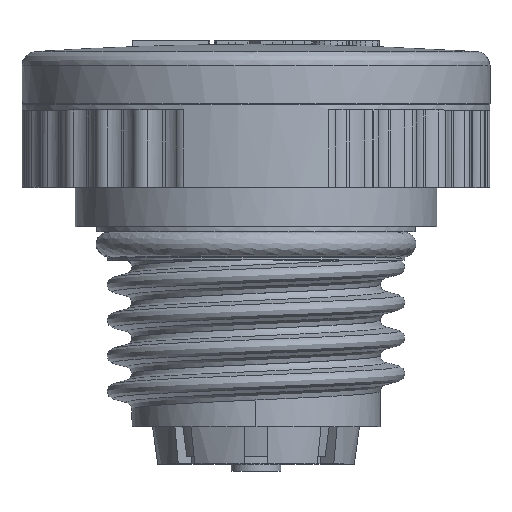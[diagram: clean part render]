
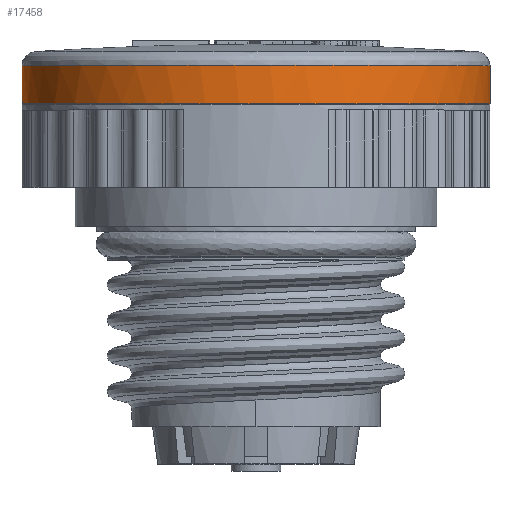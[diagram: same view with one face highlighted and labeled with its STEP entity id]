
A CAD part, top view. The second image highlights one B-rep face of the part: STEP entity #17458.
In plain terms, the highlighted free-form (B-spline) face has degree [2, 1] with [7, 2] control points.
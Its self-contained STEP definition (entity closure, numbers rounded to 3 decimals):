
#17323=CARTESIAN_POINT('V901',(147.144,
   75.13,-5.93));
#17324=VERTEX_POINT('V901',#17323);
#17340=CARTESIAN_POINT('E1335',(147.144,
   75.13,-5.93));
#17341=CARTESIAN_POINT('E1335',(147.144,
   75.13,-3.84));
#17342=CARTESIAN_POINT('E1335',(146.944,
   75.13,-1.747));
#17343=CARTESIAN_POINT('E1335',(146.154,
   75.13,2.359));
#17344=CARTESIAN_POINT('E1335',(145.563,
   75.13,4.376));
#17345=CARTESIAN_POINT('E1335',(144.011,
   75.13,8.259));
#17346=CARTESIAN_POINT('E1335',(143.049,
   75.13,10.128));
#17347=CARTESIAN_POINT('E1335',(140.791,
   75.13,13.648));
#17348=CARTESIAN_POINT('E1335',(139.493,
   75.13,15.301));
#17349=CARTESIAN_POINT('E1335',(136.662,
   75.13,18.277));
#17350=CARTESIAN_POINT('E1335',(135.137,
   75.13,19.611));
#17351=CARTESIAN_POINT('E1335',(131.871,
   75.13,21.977));
#17352=CARTESIAN_POINT('E1335',(130.128,
   75.13,23.011));
#17353=CARTESIAN_POINT('E1335',(125.715,
   75.13,25.107));
#17354=CARTESIAN_POINT('E1335',(122.957,
   75.13,26.));
#17355=CARTESIAN_POINT('E1335',(117.314,
   75.13,27.042));
#17356=CARTESIAN_POINT('E1335',(114.419,
   75.13,27.193));
#17357=CARTESIAN_POINT('E1335',(109.535,
   75.13,26.809));
#17358=CARTESIAN_POINT('E1335',(107.523,
   75.13,26.462));
#17359=CARTESIAN_POINT('E1335',(103.603,
   75.13,25.407));
#17360=CARTESIAN_POINT('E1335',(101.689,
   75.13,24.696));
#17361=CARTESIAN_POINT('E1335',(98.029,
   75.13,22.939));
#17362=CARTESIAN_POINT('E1335',(96.278,
   75.13,21.89));
#17363=CARTESIAN_POINT('E1335',(93.003,
   75.13,19.49));
#17364=CARTESIAN_POINT('E1335',(91.475,
   75.13,18.137));
#17365=CARTESIAN_POINT('E1335',(88.649,
   75.13,15.127));
#17366=CARTESIAN_POINT('E1335',(87.358,
   75.13,13.458));
#17367=CARTESIAN_POINT('E1335',(85.118,
   75.13,9.91));
#17368=CARTESIAN_POINT('E1335',(84.167,
   75.13,8.026));
#17369=CARTESIAN_POINT('E1335',(82.641,
   75.13,4.117));
#17370=CARTESIAN_POINT('E1335',(82.064,
   75.13,2.087));
#17371=CARTESIAN_POINT('E1335',(81.307,
   75.13,-2.04));
#17372=CARTESIAN_POINT('E1335',(81.125,
   75.13,-4.143));
#17373=CARTESIAN_POINT('E1335',(81.165,
   75.13,-8.4));
#17374=CARTESIAN_POINT('E1335',(81.399,
   75.13,-10.559));
#17375=CARTESIAN_POINT('E1335',(82.281,
   75.13,-14.786));
#17376=CARTESIAN_POINT('E1335',(82.931,
   75.13,-16.858));
#17377=CARTESIAN_POINT('E1335',(84.621,
   75.13,-20.832));
#17378=CARTESIAN_POINT('E1335',(85.662,
   75.13,-22.738));
#17379=CARTESIAN_POINT('E1335',(88.095,
   75.13,-26.305));
#17380=CARTESIAN_POINT('E1335',(89.489,
   75.13,-27.971));
#17381=CARTESIAN_POINT('E1335',(92.68,
   75.13,-31.103));
#17382=CARTESIAN_POINT('E1335',(94.503,
   75.13,-32.55));
#17383=CARTESIAN_POINT('E1335',(98.406,
   75.13,-35.028));
#17384=CARTESIAN_POINT('E1335',(100.492,
   75.13,-36.063));
#17385=CARTESIAN_POINT('E1335',(104.586,
   75.13,-37.583));
#17386=CARTESIAN_POINT('E1335',(106.583,
   75.13,-38.118));
#17387=CARTESIAN_POINT('E1335',(110.636,
   75.13,-38.808));
#17388=CARTESIAN_POINT('E1335',(112.698,
   75.13,-38.963));
#17389=CARTESIAN_POINT('E1335',(116.808,
   75.13,-38.887));
#17390=CARTESIAN_POINT('E1335',(118.862,
   75.13,-38.656));
#17391=CARTESIAN_POINT('E1335',(122.888,
   75.13,-37.817));
#17392=CARTESIAN_POINT('E1335',(124.863,
   75.13,-37.209));
#17393=CARTESIAN_POINT('E1335',(129.754,
   75.13,-35.184));
#17394=CARTESIAN_POINT('E1335',(132.569,
   75.13,-33.498));
#17395=CARTESIAN_POINT('E1335',(137.576,
   75.13,-29.391));
#17396=CARTESIAN_POINT('E1335',(139.78,
   75.13,-26.96));
#17397=CARTESIAN_POINT('E1335',(143.378,
   75.13,-21.577));
#17398=CARTESIAN_POINT('E1335',(144.782,
   75.13,-18.611));
#17399=CARTESIAN_POINT('E1335',(146.662,
   75.13,-12.414));
#17400=CARTESIAN_POINT('E1335',(147.144,
   75.13,-9.168));
#17401=CARTESIAN_POINT('E1335',(147.144,
   75.13,-5.93));
#17402=B_SPLINE_CURVE_WITH_KNOTS('E1335',3,(#17340,#17341,#17342,
   #17343,#17344,#17345,#17346,#17347,#17348,#17349,#17350,#17351,
   #17352,#17353,#17354,#17355,#17356,#17357,#17358,#17359,#17360,
   #17361,#17362,#17363,#17364,#17365,#17366,#17367,#17368,#17369,
   #17370,#17371,#17372,#17373,#17374,#17375,#17376,#17377,#17378,
   #17379,#17380,#17381,#17382,#17383,#17384,#17385,#17386,#17387,
   #17388,#17389,#17390,#17391,#17392,#17393,#17394,#17395,#17396,
   #17397,#17398,#17399,#17400,#17401),.UNSPECIFIED.,.T.,.U.,(4,2,2,
   2,2,2,2,2,2,2,2,2,2,2,2,2,2,2,2,2,2,2,2,2,2,2,2,2,2,2,4),(2.0,
   3.956,5.912,7.867,
   9.823,11.709,13.595,
   16.279,18.963,20.862,
   22.762,24.661,26.56,
   28.523,30.486,32.449,
   34.412,36.431,38.451,
   40.471,42.491,44.653,
   46.816,48.74,50.663,
   52.586,54.509,57.538,
   60.567,63.596,66.625),
   .UNSPECIFIED.);
#17403=EDGE_CURVE('E1335',#17324,#17324,#17402,.T.);
#17408=CARTESIAN_POINT('F420',(147.144,
   69.742,-5.93));
#17409=CARTESIAN_POINT('F420',(147.144,
   69.742,-63.088));
#17410=CARTESIAN_POINT('F420',(97.644,69.742,
   -34.509));
#17411=CARTESIAN_POINT('F420',(48.144,69.742,
   -5.93));
#17412=CARTESIAN_POINT('F420',(97.644,69.742,
   22.648));
#17413=CARTESIAN_POINT('F420',(147.144,
   69.742,51.227));
#17414=CARTESIAN_POINT('F420',(147.144,
   69.742,-5.93));
#17415=CARTESIAN_POINT('F420',(147.144,
   77.001,-5.93));
#17416=CARTESIAN_POINT('F420',(147.144,
   77.001,-63.088));
#17417=CARTESIAN_POINT('F420',(97.644,77.001,
   -34.509));
#17418=CARTESIAN_POINT('F420',(48.144,77.001,
   -5.93));
#17419=CARTESIAN_POINT('F420',(97.644,77.001,
   22.648));
#17420=CARTESIAN_POINT('F420',(147.144,
   77.001,51.227));
#17421=CARTESIAN_POINT('F420',(147.144,
   77.001,-5.93));
#17429=(BOUNDED_SURFACE()B_SPLINE_SURFACE(2,1,((#17408,#17415),(
   #17409,#17416),(#17410,#17417),(#17411,#17418),(#17412,
   #17419),(#17413,#17420),(#17414,#17421)),.CYLINDRICAL_SURF.,
   .T.,.F.,.U.)B_SPLINE_SURFACE_WITH_KNOTS((3,2,2,3),(2,2),(0.0,
   15.748,31.497,47.245),(0.0,
   1.0),.UNSPECIFIED.)GEOMETRIC_REPRESENTATION_ITEM()
   RATIONAL_B_SPLINE_SURFACE(((1.0,1.0),(0.5,
   0.5),(1.0,1.0),(0.5,
   0.5),(1.0,1.0),(0.5,
   0.5),(1.0,1.0)))REPRESENTATION_ITEM('F420')
   SURFACE());
#17430=ORIENTED_EDGE('F419',*,*,#17403,.T.);
#17431=CARTESIAN_POINT('V902',(147.144,
   69.742,-5.93));
#17432=VERTEX_POINT('V902',#17431);
#17433=CARTESIAN_POINT('E1336',(147.144,
   75.13,-5.93));
#17434=CARTESIAN_POINT('E1336',(147.144,
   69.742,-5.93));
#17435=B_SPLINE_CURVE_WITH_KNOTS('E1336',1,(#17433,#17434),
   .POLYLINE_FORM.,.F.,.U.,(2,2),(0.258,1.0),
   .UNSPECIFIED.);
#17436=EDGE_CURVE('E1336',#17324,#17432,#17435,.T.);
#17437=ORIENTED_EDGE('E1336',*,*,#17436,.T.);
#17438=CARTESIAN_POINT('E1337',(147.144,
   69.742,-5.93));
#17439=CARTESIAN_POINT('E1337',(147.144,
   69.742,-63.088));
#17440=CARTESIAN_POINT('E1337',(97.644,
   69.742,-34.509));
#17441=CARTESIAN_POINT('E1337',(48.144,
   69.742,-5.93));
#17442=CARTESIAN_POINT('E1337',(97.644,
   69.742,22.648));
#17443=CARTESIAN_POINT('E1337',(147.144,
   69.742,51.227));
#17444=CARTESIAN_POINT('E1337',(147.144,
   69.742,-5.93));
#17452=(BOUNDED_CURVE()B_SPLINE_CURVE(2,(#17438,#17439,#17440,
   #17441,#17442,#17443,#17444),.CIRCULAR_ARC.,.T.,.U.)
   B_SPLINE_CURVE_WITH_KNOTS((3,2,2,3),(0.0,15.748,
   31.497,47.245),.UNSPECIFIED.)CURVE()
   GEOMETRIC_REPRESENTATION_ITEM()RATIONAL_B_SPLINE_CURVE((1.0,
   0.5,1.0,0.5,1.0,0.5,1.0)
   )REPRESENTATION_ITEM('E1337'));
#17453=EDGE_CURVE('E1337',#17432,#17432,#17452,.T.);
#17454=ORIENTED_EDGE('E1337',*,*,#17453,.T.);
#17455=ORIENTED_EDGE('E1336',*,*,#17436,.F.);
#17456=EDGE_LOOP('F420',(#17430,#17437,#17454,#17455));
#17457=FACE_OUTER_BOUND('F420',#17456,.T.);
#17458=ADVANCED_FACE('F420',(#17457),#17429,.T.);
